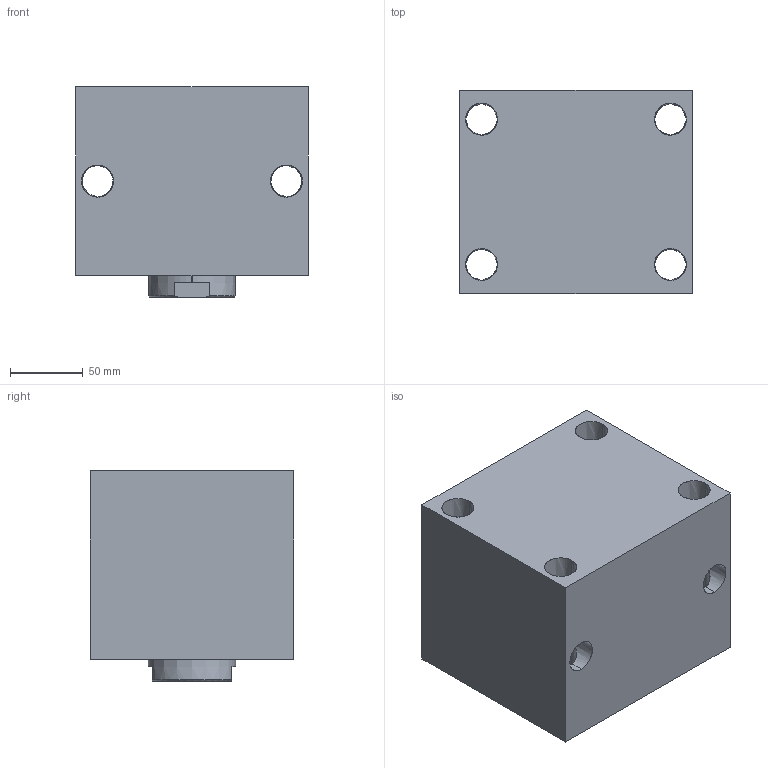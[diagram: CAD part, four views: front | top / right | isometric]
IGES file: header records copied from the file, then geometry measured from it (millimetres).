
Start section: SolidWorks IGES file using analytic representation for surfaces
Global section: file name: D:\karuppas\Clasp\3D model\Block cylinder B01C-Female thread\B01C-950F\Block cylinder B01C-950F.IGS; native system: SolidWorks 2017; preprocessor: SolidWorks 2017; author: pc; date: 220710.234615; units: millimetre
Bounding box: 160 x 140 x 145 mm (x, y, z)
Surface area: 217937.9 mm2 (no closed solid volume)
Topology: 0 solids, 0 shells, 349 faces, 5481 edges, 5475 vertices
Faces by surface type: bspline 297, revolution 52
